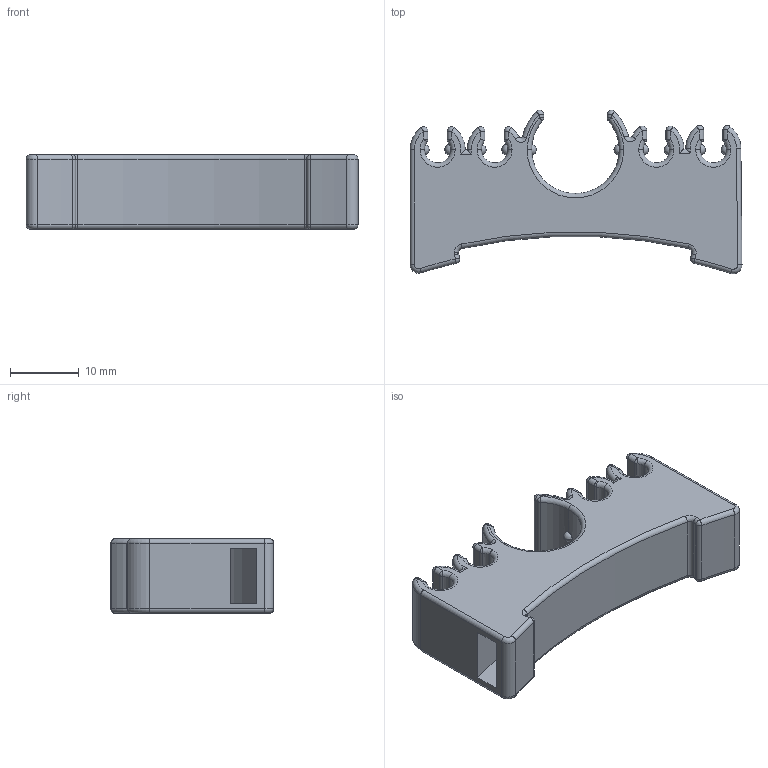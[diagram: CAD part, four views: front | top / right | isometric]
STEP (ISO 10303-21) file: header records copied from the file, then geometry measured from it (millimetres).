
FILE_DESCRIPTION (( 'STEP AP203' ), '1' );
FILE_NAME ('5012585_REV-A - 4X 0.156 + 1X 0.50 TUBING MOUNTING CLIP.STEP', '2026-08-27T16:29:46', ( '' ), ( '' ), 'SwSTEP 2.0', 'SolidWorks 2019', '' );
FILE_SCHEMA (( 'CONFIG_CONTROL_DESIGN' ));
Length unit declared in the file: inch
Products named in the file (1): 5012585_REV-A - 4X 0.156 + 1X 0.50 TUBING MOUNTING CLIP
Bounding box: 48.12 x 23.68 x 10.79 mm (x, y, z)
Volume: 5842.6 mm3; surface area: 4647.8 mm2
Topology: 1 solids, 1 shells, 251 faces, 617 edges, 334 vertices
Faces by surface type: cylinder 91, torus 76, sphere 64, plane 20
Entity records: 7268 total; most frequent: CARTESIAN_POINT 1519, DIRECTION 1363, ORIENTED_EDGE 1114, AXIS2_PLACEMENT_3D 604, EDGE_CURVE 557, CIRCLE 352, VERTEX_POINT 308, EDGE_LOOP 253
